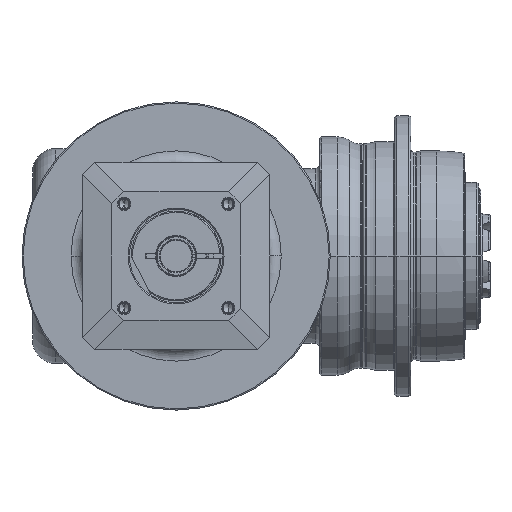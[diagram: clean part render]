
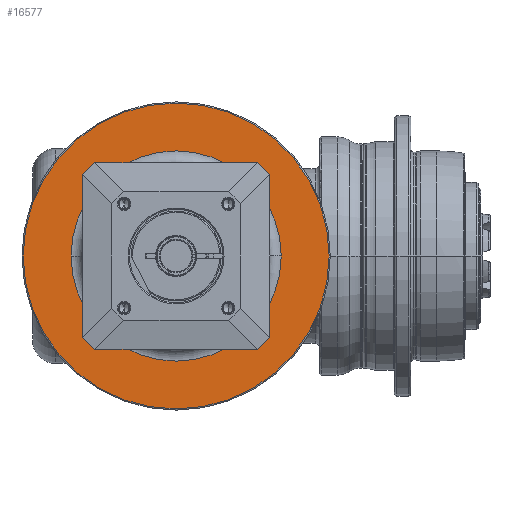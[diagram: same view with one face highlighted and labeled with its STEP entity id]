
A CAD part, front view. The second image highlights one B-rep face of the part: STEP entity #16577.
In plain terms, the highlighted planar face has unit normal (0, -1, 0) as drawn and (1, 0, 0) by its records, which use the part's own axes.
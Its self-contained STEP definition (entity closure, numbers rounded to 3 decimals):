
#16056=CARTESIAN_POINT('',(-9.,0.,0.));
#16057=DIRECTION('',(-1.,0.,0.));
#16058=DIRECTION('',(0.,-1.,0.));
#16059=AXIS2_PLACEMENT_3D('',#16056,#16057,#16058);
#16061=CARTESIAN_POINT('',(-9.,0.,0.));
#16062=DIRECTION('',(-1.,0.,0.));
#16063=DIRECTION('',(0.,1.,0.));
#16064=AXIS2_PLACEMENT_3D('',#16061,#16062,#16063);
#16066=CARTESIAN_POINT('',(-9.,0.,0.));
#16067=DIRECTION('',(-1.,0.,0.));
#16068=DIRECTION('',(0.,-1.,0.));
#16069=AXIS2_PLACEMENT_3D('',#16066,#16067,#16068);
#16071=CARTESIAN_POINT('',(-9.,0.,0.));
#16072=DIRECTION('',(-1.,0.,0.));
#16073=DIRECTION('',(0.,1.,0.));
#16074=AXIS2_PLACEMENT_3D('',#16071,#16072,#16073);
#16140=CARTESIAN_POINT('',(-9.,-65.5,0.));
#16141=CARTESIAN_POINT('',(-9.,65.5,0.));
#16142=VERTEX_POINT('',#16140);
#16143=VERTEX_POINT('',#16141);
#16164=CARTESIAN_POINT('',(-9.,-45.,0.));
#16165=CARTESIAN_POINT('',(-9.,45.,0.));
#16166=VERTEX_POINT('',#16164);
#16167=VERTEX_POINT('',#16165);
#16562=CARTESIAN_POINT('',(-9.,0.,0.));
#16563=DIRECTION('',(1.,0.,0.));
#16564=DIRECTION('',(0.,-1.,0.));
#16565=AXIS2_PLACEMENT_3D('',#16562,#16563,#16564);
#16566=PLANE('',#16565);
#16567=ORIENTED_EDGE('',*,*,#16503,.T.);
#16568=ORIENTED_EDGE('',*,*,#16518,.T.);
#16569=EDGE_LOOP('',(#16567,#16568));
#16570=FACE_OUTER_BOUND('',#16569,.F.);
#16572=ORIENTED_EDGE('',*,*,#16571,.F.);
#16574=ORIENTED_EDGE('',*,*,#16573,.F.);
#16575=EDGE_LOOP('',(#16572,#16574));
#16576=FACE_BOUND('',#16575,.F.);
#16577=ADVANCED_FACE('',(#16570,#16576),#16566,.T.);
#16060=CIRCLE('',#16059,45.);
#16065=CIRCLE('',#16064,45.);
#16070=CIRCLE('',#16069,65.5);
#16075=CIRCLE('',#16074,65.5);
#16503=EDGE_CURVE('',#16142,#16143,#16070,.T.);
#16518=EDGE_CURVE('',#16143,#16142,#16075,.T.);
#16571=EDGE_CURVE('',#16166,#16167,#16060,.T.);
#16573=EDGE_CURVE('',#16167,#16166,#16065,.T.);
